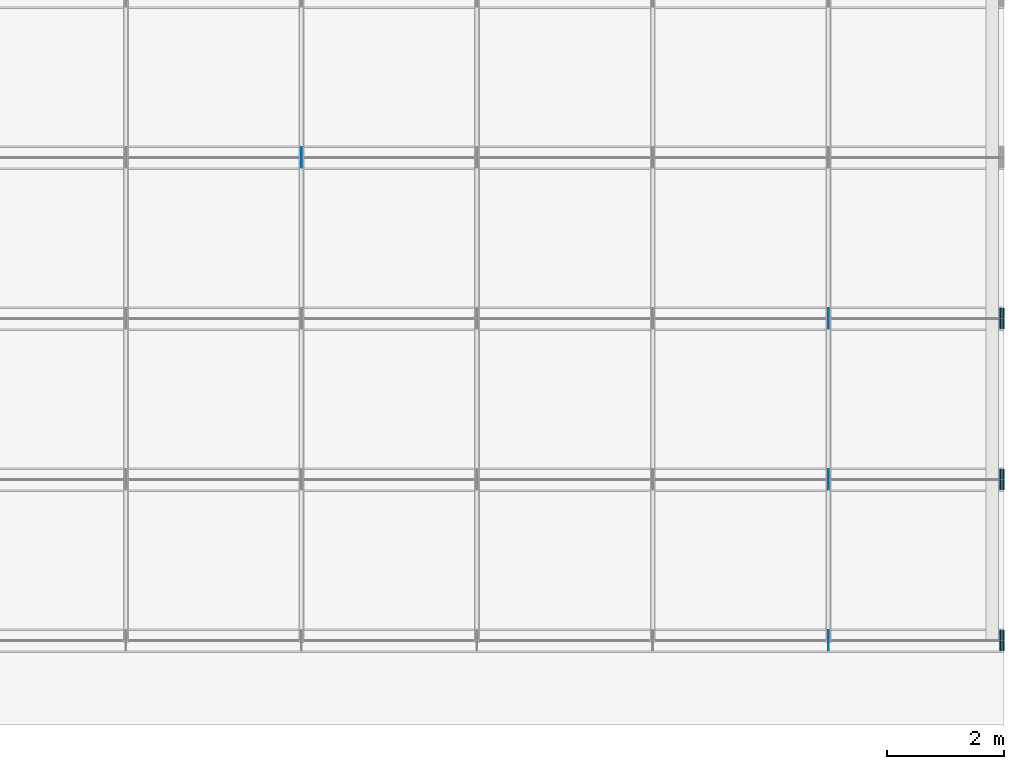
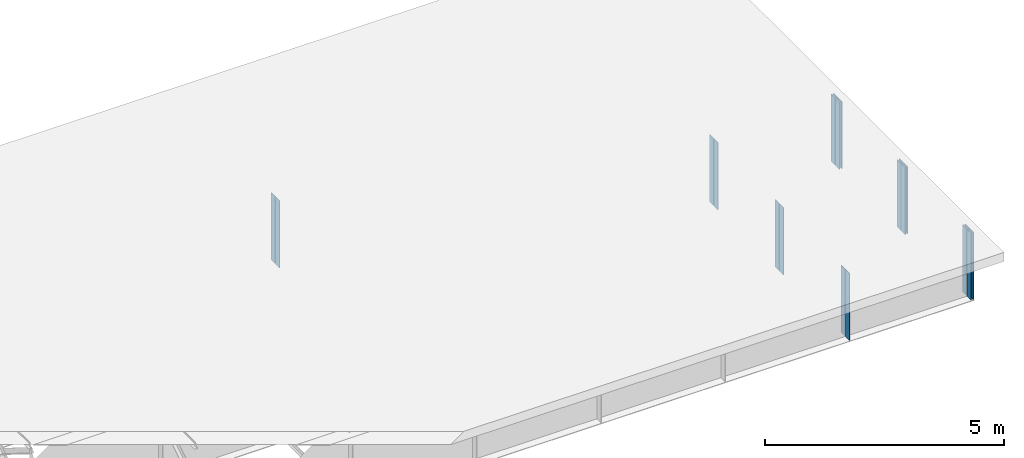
# One storey, part 16 of 17: 20 plates.
"""IFC4 building model written with IfcOpenShell, lengths in metres."""

from ifc_helpers import new_model, si_unit, frame, origin, origin_with_axes, origin_2d_with_axis, place, context, subcontext, project, spatial, rectangle, extrude, element, save


model = new_model("IFC4")

# Units and contexts
model_context = context("Model", 3, precision=1e-05, world=origin())
body_context = subcontext(model_context, "Body", "Model", "MODEL_VIEW")
ifc_project = project(units=[si_unit("LENGTHUNIT", "METRE"), si_unit("AREAUNIT", "SQUARE_METRE"), si_unit("VOLUMEUNIT", "CUBIC_METRE"), si_unit("PLANEANGLEUNIT", "RADIAN")], contexts=[model_context])

# Site, building, storey
site_placement = place(None, origin_with_axes())
site = spatial("IfcSite", under=ifc_project, at=site_placement, Name="Default Site")
building_placement = place(site_placement, origin_with_axes())
building = spatial("IfcBuilding", under=site, at=building_placement, Name="Bridge Structure")
storey_placement = place(building_placement, origin_with_axes())
storey = spatial("IfcBuildingStorey", under=building, at=storey_placement, Name="Superstructure")

# Plates
for number, where, z_axis, x_axis, name in (
    (1, (27.0, -5.409, -0.857), (0.0, 0.0, 1.0), (1.0, 0.0, 0.0), "Intermediate Stiffener 1"),
    (2, (27.0, -5.591, -0.857), (0.0, 0.0, 1.0), (1.0, 0.0, 0.0), "Intermediate Stiffener 1"),
):
    element("IfcPlate", number, at=place(storey_placement, frame(where, z_axis=z_axis, x_axis=x_axis)), inside=storey, Name=name, context=body_context, shape_type="SweptSolid", body=[
        extrude(rectangle(XDim=0.012, YDim=0.168, at=origin_2d_with_axis()), origin_with_axes(), (0.0, 0.0, 1.0), 1.714),
    ])
for number, where, z_axis, x_axis, name in (
    (3, (29.990000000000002, -5.409, -0.857), (0.0, 0.0, 1.0), (1.0, 0.0, 0.0), "End Stiffener 1"),
    (4, (29.990000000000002, -5.591, -0.857), (0.0, 0.0, 1.0), (1.0, 0.0, 0.0), "End Stiffener 1"),
    (5, (29.94, -5.409, -0.857), (0.0, 0.0, 1.0), (1.0, 0.0, 0.0), "End Stiffener 1"),
    (6, (29.94, -5.591, -0.857), (0.0, 0.0, 1.0), (1.0, 0.0, 0.0), "End Stiffener 1"),
):
    element("IfcPlate", number, at=place(storey_placement, frame(where, z_axis=z_axis, x_axis=x_axis)), inside=storey, Name=name, context=body_context, shape_type="SweptSolid", body=[
        extrude(rectangle(XDim=0.02, YDim=0.168, at=origin_2d_with_axis()), origin_with_axes(), (0.0, 0.0, 1.0), 1.714),
    ])
for number, where, z_axis, x_axis, name in (
    (7, (27.0, -2.6590000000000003, -0.857), (0.0, 0.0, 1.0), (1.0, 0.0, 0.0), "Intermediate Stiffener 2"),
    (8, (27.0, -2.841, -0.857), (0.0, 0.0, 1.0), (1.0, 0.0, 0.0), "Intermediate Stiffener 2"),
):
    element("IfcPlate", number, at=place(storey_placement, frame(where, z_axis=z_axis, x_axis=x_axis)), inside=storey, Name=name, context=body_context, shape_type="SweptSolid", body=[
        extrude(rectangle(XDim=0.012, YDim=0.168, at=origin_2d_with_axis()), origin_with_axes(), (0.0, 0.0, 1.0), 1.714),
    ])
for number, where, z_axis, x_axis, name in (
    (9, (29.990000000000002, -2.6590000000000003, -0.857), (0.0, 0.0, 1.0), (1.0, 0.0, 0.0), "End Stiffener 2"),
    (10, (29.990000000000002, -2.841, -0.857), (0.0, 0.0, 1.0), (1.0, 0.0, 0.0), "End Stiffener 2"),
    (11, (29.94, -2.6590000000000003, -0.857), (0.0, 0.0, 1.0), (1.0, 0.0, 0.0), "End Stiffener 2"),
    (12, (29.94, -2.841, -0.857), (0.0, 0.0, 1.0), (1.0, 0.0, 0.0), "End Stiffener 2"),
):
    element("IfcPlate", number, at=place(storey_placement, frame(where, z_axis=z_axis, x_axis=x_axis)), inside=storey, Name=name, context=body_context, shape_type="SweptSolid", body=[
        extrude(rectangle(XDim=0.02, YDim=0.168, at=origin_2d_with_axis()), origin_with_axes(), (0.0, 0.0, 1.0), 1.714),
    ])
for number, where, z_axis, x_axis, name in (
    (13, (27.0, 0.091, -0.857), (0.0, 0.0, 1.0), (1.0, 0.0, 0.0), "Intermediate Stiffener 3"),
    (14, (27.0, -0.091, -0.857), (0.0, 0.0, 1.0), (1.0, 0.0, 0.0), "Intermediate Stiffener 3"),
):
    element("IfcPlate", number, at=place(storey_placement, frame(where, z_axis=z_axis, x_axis=x_axis)), inside=storey, Name=name, context=body_context, shape_type="SweptSolid", body=[
        extrude(rectangle(XDim=0.012, YDim=0.168, at=origin_2d_with_axis()), origin_with_axes(), (0.0, 0.0, 1.0), 1.714),
    ])
for number, where, z_axis, x_axis, name in (
    (15, (29.990000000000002, 0.091, -0.857), (0.0, 0.0, 1.0), (1.0, 0.0, 0.0), "End Stiffener 3"),
    (16, (29.990000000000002, -0.091, -0.857), (0.0, 0.0, 1.0), (1.0, 0.0, 0.0), "End Stiffener 3"),
    (17, (29.94, 0.091, -0.857), (0.0, 0.0, 1.0), (1.0, 0.0, 0.0), "End Stiffener 3"),
    (18, (29.94, -0.091, -0.857), (0.0, 0.0, 1.0), (1.0, 0.0, 0.0), "End Stiffener 3"),
):
    element("IfcPlate", number, at=place(storey_placement, frame(where, z_axis=z_axis, x_axis=x_axis)), inside=storey, Name=name, context=body_context, shape_type="SweptSolid", body=[
        extrude(rectangle(XDim=0.02, YDim=0.168, at=origin_2d_with_axis()), origin_with_axes(), (0.0, 0.0, 1.0), 1.714),
    ])
for number, where, z_axis, x_axis, name in (
    (19, (18.0, 2.841, -0.857), (0.0, 0.0, 1.0), (1.0, 0.0, 0.0), "Intermediate Stiffener 4"),
    (20, (18.0, 2.6590000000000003, -0.857), (0.0, 0.0, 1.0), (1.0, 0.0, 0.0), "Intermediate Stiffener 4"),
):
    element("IfcPlate", number, at=place(storey_placement, frame(where, z_axis=z_axis, x_axis=x_axis)), inside=storey, Name=name, context=body_context, shape_type="SweptSolid", body=[
        extrude(rectangle(XDim=0.012, YDim=0.168, at=origin_2d_with_axis()), origin_with_axes(), (0.0, 0.0, 1.0), 1.714),
    ])

save(model, "model.ifc")
